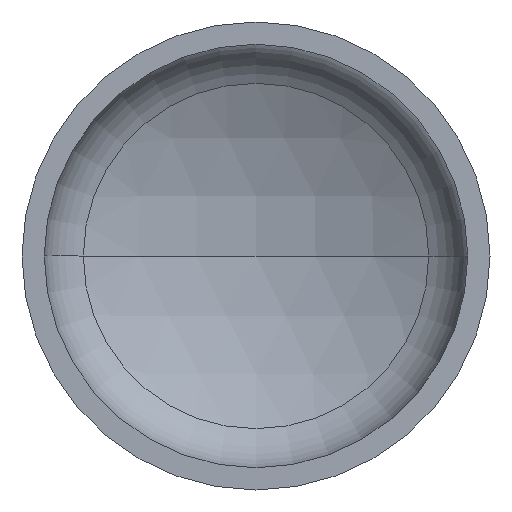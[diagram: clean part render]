
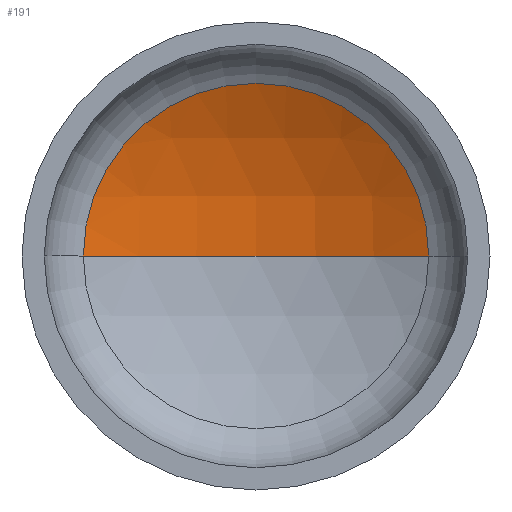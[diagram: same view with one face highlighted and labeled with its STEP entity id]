
A CAD part, front view. The second image highlights one B-rep face of the part: STEP entity #191.
In plain terms, the highlighted spherical face has radius 135 mm.
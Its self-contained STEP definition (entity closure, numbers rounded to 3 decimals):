
#5 = CARTESIAN_POINT ( 'NONE',  ( 0., -71.778, 0. ) ) ;
#18 = ORIENTED_EDGE ( 'NONE', *, *, #73, .T. ) ;
#27 = EDGE_LOOP ( 'NONE', ( #93, #235, #18 ) ) ;
#45 = CIRCLE ( 'NONE', #231, 135. ) ;
#46 = VERTEX_POINT ( 'NONE', #220 ) ;
#55 = DIRECTION ( 'NONE',  ( -1., 0., 0. ) ) ;
#73 = EDGE_CURVE ( 'NONE', #140, #383, #271, .T. ) ;
#93 = ORIENTED_EDGE ( 'NONE', *, *, #185, .F. ) ;
#128 = CARTESIAN_POINT ( 'NONE',  ( 62.112, 48.085, 0. ) ) ;
#140 = VERTEX_POINT ( 'NONE', #128 ) ;
#142 = DIRECTION ( 'NONE',  ( 0., 0., -1. ) ) ;
#143 = CARTESIAN_POINT ( 'NONE',  ( 0., -71.778, 0. ) ) ;
#153 = CIRCLE ( 'NONE', #202, 135. ) ;
#156 = DIRECTION ( 'NONE',  ( 0., 0., 1. ) ) ;
#164 = CARTESIAN_POINT ( 'NONE',  ( 0., 48.085, 0. ) ) ;
#183 = CARTESIAN_POINT ( 'NONE',  ( 0., -71.778, 0. ) ) ;
#185 = EDGE_CURVE ( 'NONE', #46, #383, #45, .T. ) ;
#191 = ADVANCED_FACE ( 'NONE', ( #387 ), #324, .F. ) ;
#192 = AXIS2_PLACEMENT_3D ( 'NONE', #183, #142, #55 ) ;
#202 = AXIS2_PLACEMENT_3D ( 'NONE', #5, #407, #365 ) ;
#205 = EDGE_CURVE ( 'NONE', #46, #140, #153, .T. ) ;
#210 = CARTESIAN_POINT ( 'NONE',  ( -62.112, 48.085, 0. ) ) ;
#220 = CARTESIAN_POINT ( 'NONE',  ( 0., 63.222, 0. ) ) ;
#231 = AXIS2_PLACEMENT_3D ( 'NONE', #143, #156, #281 ) ;
#235 = ORIENTED_EDGE ( 'NONE', *, *, #205, .T. ) ;
#244 = AXIS2_PLACEMENT_3D ( 'NONE', #164, #347, #346 ) ;
#271 = CIRCLE ( 'NONE', #244, 62.112 ) ;
#281 = DIRECTION ( 'NONE',  ( 1., 0., 0. ) ) ;
#324 = SPHERICAL_SURFACE ( 'NONE', #192, 135. ) ;
#346 = DIRECTION ( 'NONE',  ( 1., 0., 0. ) ) ;
#347 = DIRECTION ( 'NONE',  ( 0., -1., 0. ) ) ;
#365 = DIRECTION ( 'NONE',  ( -1., 0., 0. ) ) ;
#383 = VERTEX_POINT ( 'NONE', #210 ) ;
#387 = FACE_OUTER_BOUND ( 'NONE', #27, .T. ) ;
#407 = DIRECTION ( 'NONE',  ( 0., 0., -1. ) ) ;
